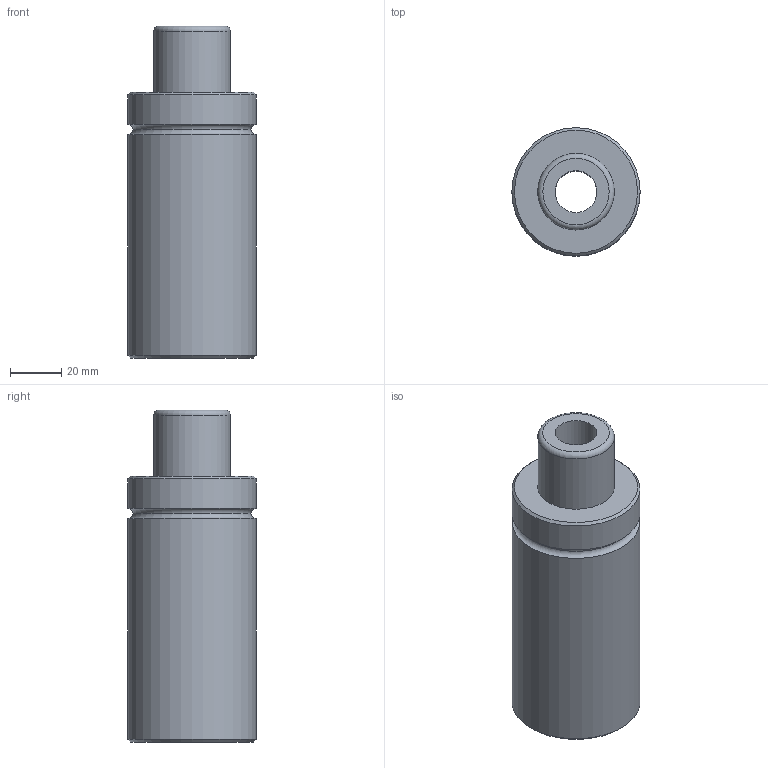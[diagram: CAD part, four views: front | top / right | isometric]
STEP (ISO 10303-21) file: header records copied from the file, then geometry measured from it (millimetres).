
FILE_DESCRIPTION(('FreeCAD Model'),'2;1');
FILE_NAME('Open CASCADE Shape Model','2024-11-14T08:24:01',('Author'),( ''),'Open CASCADE STEP processor 7.6','FreeCAD','Unknown');
FILE_SCHEMA(('AUTOMOTIVE_DESIGN { 1 0 10303 214 1 1 1 1 }'));
Length unit declared in the file: millimetre
Products named in the file (5): Unnamed; Part001; Fillet; Part007; Cut002
Assembly tree (4 placements, depth 3):
  Unnamed
    Part001
      Fillet
    Part007
      Cut002
Bounding box: 50.2 x 50.2 x 130 mm (x, y, z)
Volume: 194717.7 mm3; surface area: 30682.4 mm2
Topology: 2 solids, 2 shells, 20 faces, 33 edges, 20 vertices
Faces by surface type: cylinder 8, plane 7, torus 3, cone 2
Full cylindrical faces by diameter (mm): 6 x3, 16.4 x2, 30 x1, 50.2 x2
Entity records: 582 total; most frequent: DIRECTION 106, CARTESIAN_POINT 78, ORIENTED_EDGE 66, AXIS2_PLACEMENT_3D 48, EDGE_CURVE 33, FACE_BOUND 27, EDGE_LOOP 27, CIRCLE 23
